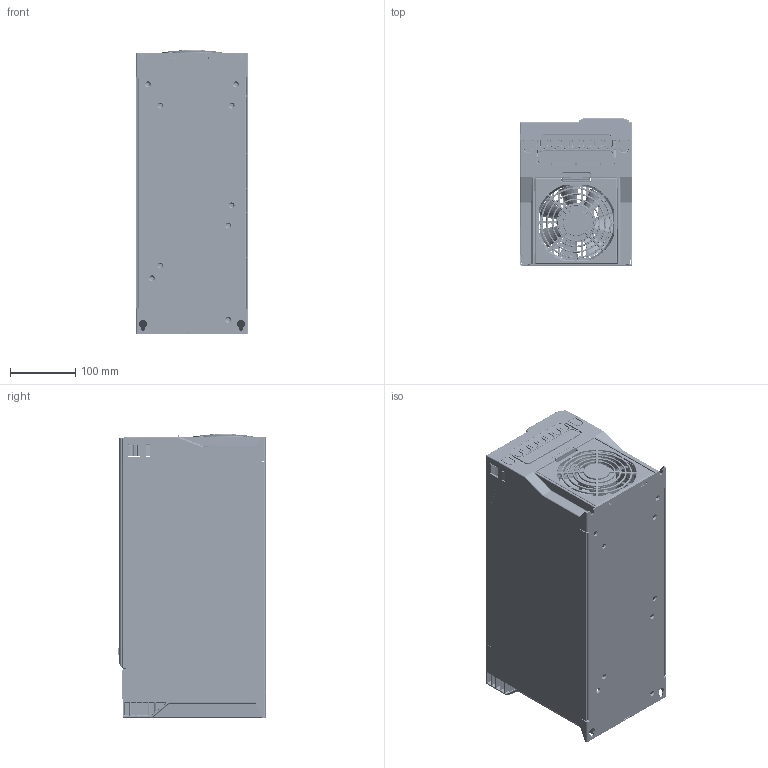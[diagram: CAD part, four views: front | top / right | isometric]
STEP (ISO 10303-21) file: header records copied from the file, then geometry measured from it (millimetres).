
FILE_DESCRIPTION(/* description */ (''),/* implementation_level */ '2;1');
FILE_NAME(/* name */ 'VF302C-B5-3d.step',/* time_stamp */ '2023-03-02T10:33:14+07:00',/* author */ (''),/* organization */ (''),/* preprocessor_version */ 'ST-DEVELOPER v19.2',/* originating_system */ 'Autodesk Translation Framework v11.17.0.187',/* authorisation */ '');
FILE_SCHEMA (('AUTOMOTIVE_DESIGN { 1 0 10303 214 3 1 1 }'));
Products named in the file (10): (Unsaved); VF302C-B5-3d; VEDAVFD; display (1); display; knopka_prg; knopka_ust_pusk; knopka_ust_stop; knopka_ust_vybor; knopka_up
Assembly tree (10 placements, depth 3):
  (Unsaved)
    VF302C-B5-3d
    VEDAVFD
    display (1)
      display
      knopka_prg
      knopka_up  x2
      knopka_ust_pusk
      knopka_ust_stop
      knopka_ust_vybor
Bounding box: 172.73 x 225.3 x 433.5 mm (x, y, z)
Volume: 1940166.9 mm3; surface area: 1496386.2 mm2
Topology: 98 solids, 98 shells, 14997 faces, 39340 edges, 25205 vertices
Faces by surface type: plane 8820, bspline 3448, cylinder 2325, cone 185, torus 164, sphere 55
Full cylindrical faces by diameter (mm): 0.1 x4, 0.2 x30, 0.5 x22, 0.762 x8, 0.9 x8, 1 x2, 1.5 x12, 1.6 x2, 2 x1, 2.1 x1, 2.5 x31, 2.6 x2, 3 x10, 3.3 x6, 3.8 x20, 4 x2, 4.5 x11, 5 x13, 5.039 x2, 5.3 x1, 5.6 x2, 6 x11, 6.35 x3, 9 x2, 9.039 x2, 10 x1, 15 x1, 50 x1, 60 x1, 116 x1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
Entity records: 551515 total; most frequent: CARTESIAN_POINT 181979, ORIENTED_EDGE 78516, DIRECTION 66095, EDGE_CURVE 39258, LINE 26967, VECTOR 26967, VERTEX_POINT 25175, AXIS2_PLACEMENT_3D 19564
